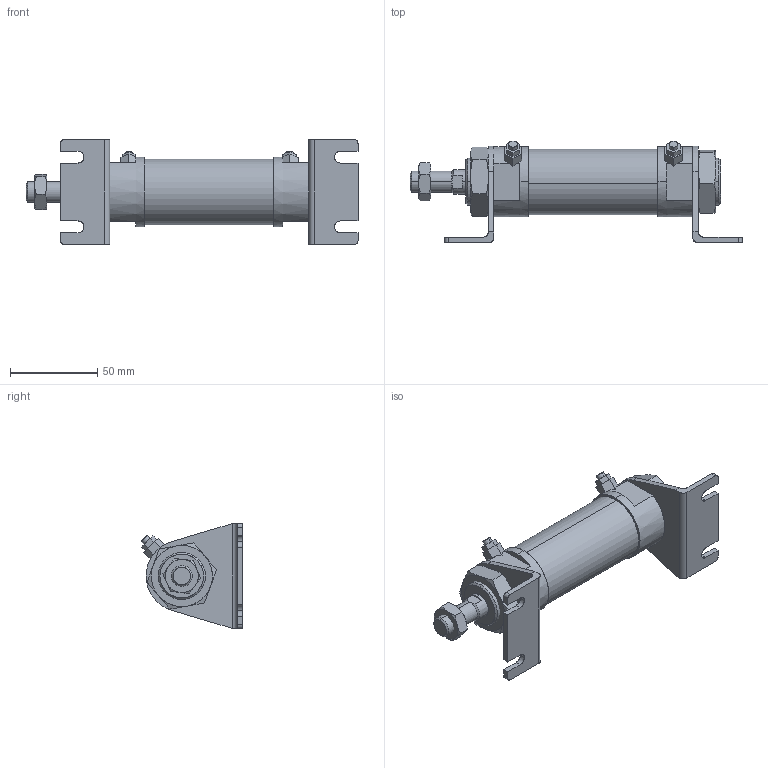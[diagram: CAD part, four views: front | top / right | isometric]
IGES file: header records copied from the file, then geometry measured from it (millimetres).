
Start section: SolidWorks IGES file using analytic representation for surfaces
Global section: file name: C:\Users\Toshiba\Desktop\JG2-32-25-L.IGS; native system: SolidWorks 2014; preprocessor: SolidWorks 2014; author: Toshiba; date: 160419.085017; units: millimetre
Bounding box: 190.2 x 58.33 x 60 mm (x, y, z)
Surface area: 49071.2 mm2 (no closed solid volume)
Topology: 0 solids, 0 shells, 205 faces, 3014 edges, 3010 vertices
Faces by surface type: bspline 141, revolution 64
